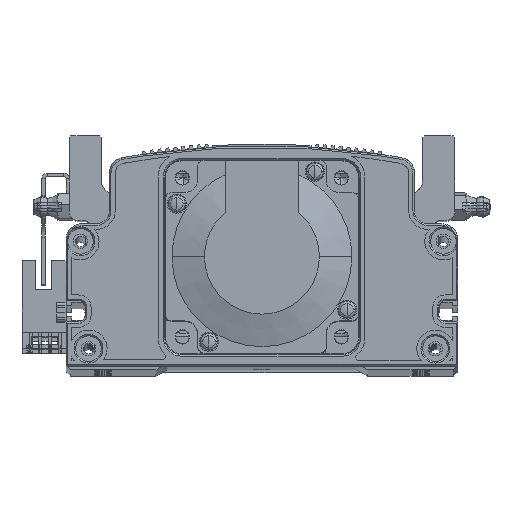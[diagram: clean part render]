
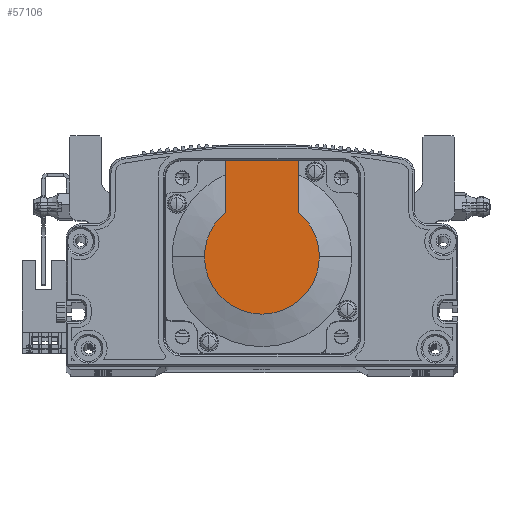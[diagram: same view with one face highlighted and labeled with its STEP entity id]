
A CAD part, top view. The second image highlights one B-rep face of the part: STEP entity #57106.
In plain terms, the highlighted planar face has unit normal (0, 0, 1) as drawn and (-1, 0, 0) by its records, which use the part's own axes.
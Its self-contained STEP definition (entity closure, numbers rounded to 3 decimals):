
#348 = CIRCLE ( 'NONE', #54698, 17.881 ) ;
#2185 = DIRECTION ( 'NONE',  ( 0., -1., 0. ) ) ;
#3479 = CARTESIAN_POINT ( 'NONE',  ( -118.5, 0., 0. ) ) ;
#4058 = ORIENTED_EDGE ( 'NONE', *, *, #13186, .T. ) ;
#6556 = LINE ( 'NONE', #64208, #72767 ) ;
#6693 = ORIENTED_EDGE ( 'NONE', *, *, #84111, .T. ) ;
#8863 = DIRECTION ( 'NONE',  ( -1., 0., 0. ) ) ;
#9490 = CARTESIAN_POINT ( 'NONE',  ( -118.5, -8.941, 0. ) ) ;
#10791 = DIRECTION ( 'NONE',  ( -1., 0., 0. ) ) ;
#11798 = VERTEX_POINT ( 'NONE', #27351 ) ;
#12808 = LINE ( 'NONE', #23069, #77959 ) ;
#13021 = EDGE_CURVE ( 'NONE', #42362, #58267, #81402, .T. ) ;
#13186 = EDGE_CURVE ( 'NONE', #11798, #76420, #44799, .T. ) ;
#15875 = DIRECTION ( 'NONE',  ( 0., 0., 1. ) ) ;
#23069 = CARTESIAN_POINT ( 'NONE',  ( -118.5, 30., 25. ) ) ;
#23423 = ORIENTED_EDGE ( 'NONE', *, *, #13021, .T. ) ;
#27351 = CARTESIAN_POINT ( 'NONE',  ( -118.5, 30., -11.45 ) ) ;
#28541 = VERTEX_POINT ( 'NONE', #62540 ) ;
#30377 = DIRECTION ( 'NONE',  ( 0., 0., 1. ) ) ;
#31224 = DIRECTION ( 'NONE',  ( -1., 0., 0. ) ) ;
#32799 = CARTESIAN_POINT ( 'NONE',  ( -118.5, -8.941, -11.45 ) ) ;
#37270 = PLANE ( 'NONE',  #45556 ) ;
#37653 = ORIENTED_EDGE ( 'NONE', *, *, #85228, .T. ) ;
#41151 = EDGE_CURVE ( 'NONE', #11798, #50454, #12808, .T. ) ;
#41197 = AXIS2_PLACEMENT_3D ( 'NONE', #75012, #31224, #89321 ) ;
#41477 = EDGE_LOOP ( 'NONE', ( #4058, #37653, #23423, #6693, #82258, #66618 ) ) ;
#42362 = VERTEX_POINT ( 'NONE', #54395 ) ;
#44799 = LINE ( 'NONE', #32799, #47097 ) ;
#45133 = DIRECTION ( 'NONE',  ( 0., 0., -1. ) ) ;
#45556 = AXIS2_PLACEMENT_3D ( 'NONE', #9490, #8863, #15875 ) ;
#47097 = VECTOR ( 'NONE', #2185, 1000. ) ;
#50179 = CARTESIAN_POINT ( 'NONE',  ( -118.5, 13.735, -11.45 ) ) ;
#50454 = VERTEX_POINT ( 'NONE', #72477 ) ;
#54067 = CARTESIAN_POINT ( 'NONE',  ( -118.5, 0., 17.881 ) ) ;
#54395 = CARTESIAN_POINT ( 'NONE',  ( -118.5, 0., -17.881 ) ) ;
#54698 = AXIS2_PLACEMENT_3D ( 'NONE', #74241, #81557, #45133 ) ;
#57106 = ADVANCED_FACE ( 'NONE', ( #60275 ), #37270, .T. ) ;
#58267 = VERTEX_POINT ( 'NONE', #54067 ) ;
#60275 = FACE_OUTER_BOUND ( 'NONE', #41477, .T. ) ;
#62540 = CARTESIAN_POINT ( 'NONE',  ( -118.5, 13.735, 11.45 ) ) ;
#63743 = EDGE_CURVE ( 'NONE', #50454, #28541, #6556, .T. ) ;
#64208 = CARTESIAN_POINT ( 'NONE',  ( -118.5, 0., 11.45 ) ) ;
#66618 = ORIENTED_EDGE ( 'NONE', *, *, #41151, .F. ) ;
#67019 = DIRECTION ( 'NONE',  ( 0., 0., -1. ) ) ;
#72477 = CARTESIAN_POINT ( 'NONE',  ( -118.5, 30., 11.45 ) ) ;
#72767 = VECTOR ( 'NONE', #94451, 1000. ) ;
#74241 = CARTESIAN_POINT ( 'NONE',  ( -118.5, 0., 0. ) ) ;
#75012 = CARTESIAN_POINT ( 'NONE',  ( -118.5, 0., 0. ) ) ;
#76420 = VERTEX_POINT ( 'NONE', #50179 ) ;
#77959 = VECTOR ( 'NONE', #30377, 1000. ) ;
#81402 = CIRCLE ( 'NONE', #41197, 17.881 ) ;
#81557 = DIRECTION ( 'NONE',  ( -1., 0., 0. ) ) ;
#82258 = ORIENTED_EDGE ( 'NONE', *, *, #63743, .F. ) ;
#82981 = AXIS2_PLACEMENT_3D ( 'NONE', #3479, #10791, #67019 ) ;
#84111 = EDGE_CURVE ( 'NONE', #58267, #28541, #348, .T. ) ;
#85228 = EDGE_CURVE ( 'NONE', #76420, #42362, #87017, .T. ) ;
#87017 = CIRCLE ( 'NONE', #82981, 17.881 ) ;
#89321 = DIRECTION ( 'NONE',  ( 0., 0., -1. ) ) ;
#94451 = DIRECTION ( 'NONE',  ( 0., -1., 0. ) ) ;
